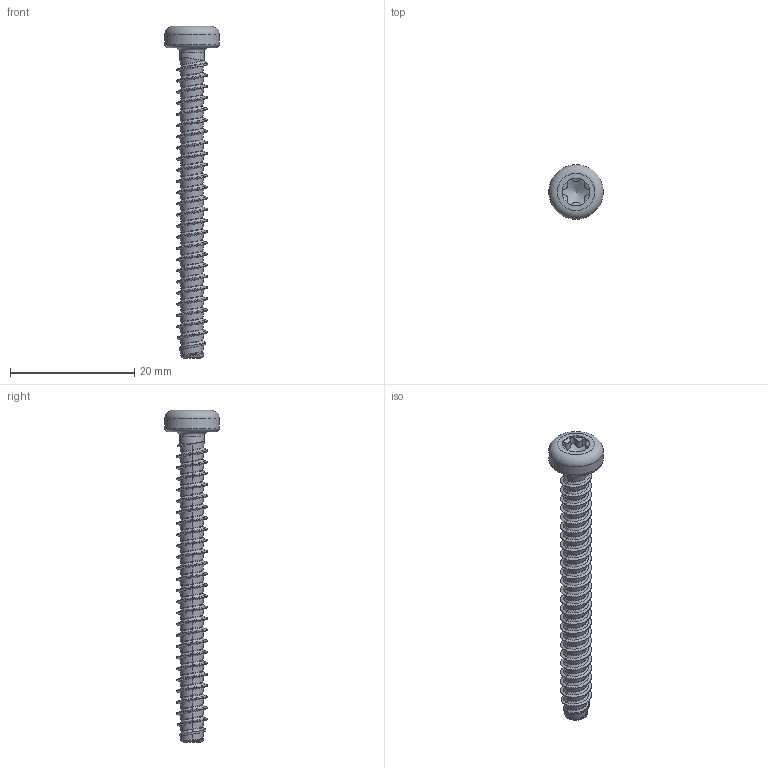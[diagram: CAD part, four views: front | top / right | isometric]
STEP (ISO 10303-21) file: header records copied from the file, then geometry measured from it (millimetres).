
FILE_DESCRIPTION(/* description */ (''),/* implementation_level */ '2;1');
FILE_NAME(/* name */ 'KN6039-STSplus-50x50-T25.step',/* time_stamp */ '2017-10-11T16:08:11+02:00',/* author */ (''),/* organization */ (''),/* preprocessor_version */ 'ST-DEVELOPER v16',/* originating_system */ 'SIEMENS PLM Software NX 10.0',/* authorisation */ '');
FILE_SCHEMA (('AUTOMOTIVE_DESIGN { 1 0 10303 214 3 1 1 1 }'));
Length unit declared in the file: millimetre
Products named in the file (1): KN6039-STSplus-50x50-T25
Bounding box: 8.8 x 8.8 x 53.5 mm (x, y, z)
Volume: 783.5 mm3; surface area: 1142.5 mm2
Topology: 1 solids, 1 shells, 170 faces, 385 edges, 218 vertices
Faces by surface type: bspline 138, cylinder 16, cone 9, torus 4, plane 3
Full cylindrical faces by diameter (mm): 3.92 x1, 4.5 x1, 8.8 x1
Entity records: 12349 total; most frequent: CARTESIAN_POINT 9471, ORIENTED_EDGE 746, EDGE_CURVE 373, DIRECTION 247, VERTEX_POINT 215, B_SPLINE_CURVE_WITH_KNOTS 210, EDGE_LOOP 179, ADVANCED_FACE 170
